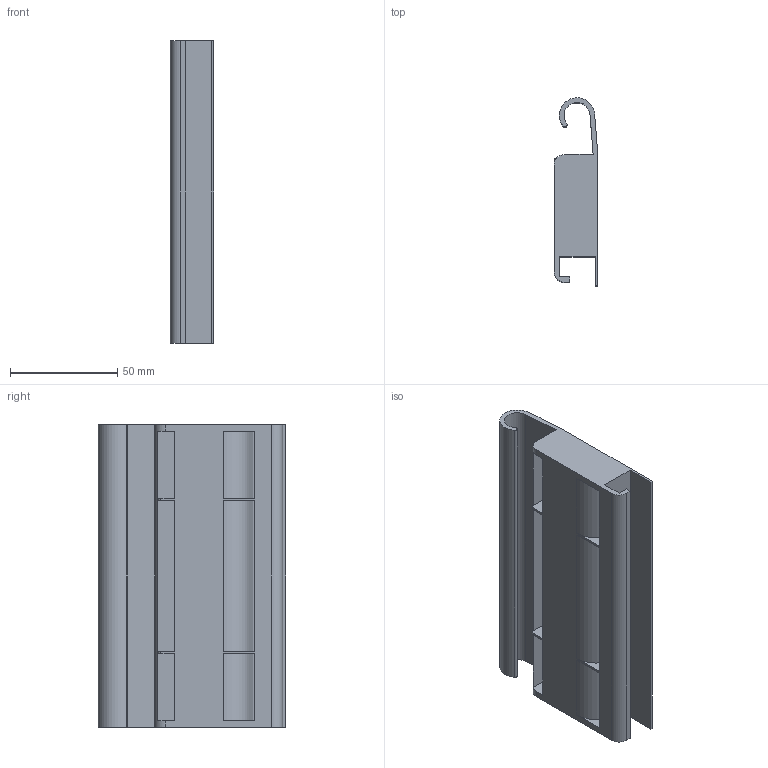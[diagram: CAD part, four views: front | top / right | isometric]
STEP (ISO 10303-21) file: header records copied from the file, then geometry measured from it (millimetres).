
FILE_DESCRIPTION(/* description */ (''),/* implementation_level */ '2;1');
FILE_NAME(/* name */ 'D:\$Workingspace\Designs\Katalog\Cadsoft\GTV Prwadnice II\PB-D(KW)\PB-D(KW)\Akcesoria\Bryły 3D MB akcesoria\PB-D-UCHWEW.stp',/* time_stamp */ '2017-02-09T10:42:33+01:00',/* author */ ('tomaszw'),/* organization */ (''),/* preprocessor_version */ 'ST-DEVELOPER v16.1',/* originating_system */ 'Autodesk Inventor 2016',/* authorisation */ '');
FILE_SCHEMA (('CONFIG_CONTROL_DESIGN'));
Length unit declared in the file: millimetre
Products named in the file (1): PB-D-UCHWEW
Bounding box: 20.4 x 87.6 x 141 mm (x, y, z)
Volume: 53407.3 mm3; surface area: 52592.9 mm2
Topology: 1 solids, 1 shells, 61 faces, 175 edges, 114 vertices
Faces by surface type: plane 46, cylinder 15
Entity records: 2013 total; most frequent: CARTESIAN_POINT 351, ORIENTED_EDGE 350, DIRECTION 331, EDGE_CURVE 175, LINE 143, VECTOR 143, VERTEX_POINT 114, AXIS2_PLACEMENT_3D 94
